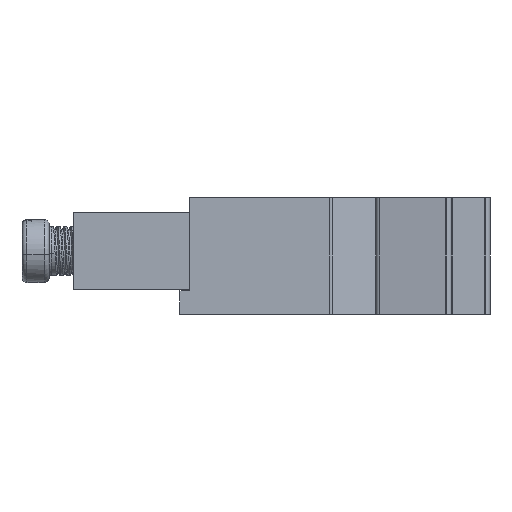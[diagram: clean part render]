
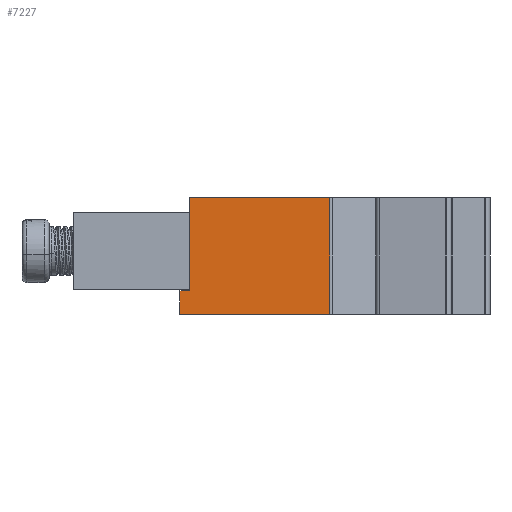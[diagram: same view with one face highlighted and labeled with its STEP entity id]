
A CAD part, left-side view. The second image highlights one B-rep face of the part: STEP entity #7227.
In plain terms, the highlighted planar face has unit normal (-1, 0, 0).
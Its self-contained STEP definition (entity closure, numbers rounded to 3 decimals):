
#315 = EDGE_CURVE ( 'NONE', #2735, #17862, #12988, .T. ) ;
#530 = DIRECTION ( 'NONE',  ( 0., 0., 1. ) ) ;
#601 = ORIENTED_EDGE ( 'NONE', *, *, #16350, .T. ) ;
#819 = LINE ( 'NONE', #9183, #5136 ) ;
#1018 = DIRECTION ( 'NONE',  ( 1., 0., 0. ) ) ;
#1299 = LINE ( 'NONE', #10472, #8508 ) ;
#1431 = ORIENTED_EDGE ( 'NONE', *, *, #315, .T. ) ;
#1823 = DIRECTION ( 'NONE',  ( 0., 1., 0. ) ) ;
#2146 = VECTOR ( 'NONE', #10010, 1000. ) ;
#2185 = FACE_OUTER_BOUND ( 'NONE', #3861, .T. ) ;
#2735 = VERTEX_POINT ( 'NONE', #2809 ) ;
#2809 = CARTESIAN_POINT ( 'NONE',  ( 0., 1., 0. ) ) ;
#3861 = EDGE_LOOP ( 'NONE', ( #1431, #13032, #10519, #6703, #601, #18040 ) ) ;
#4421 = DIRECTION ( 'NONE',  ( 0., 0., -1. ) ) ;
#5106 = CARTESIAN_POINT ( 'NONE',  ( 0., 0., 2.4 ) ) ;
#5136 = VECTOR ( 'NONE', #530, 1000. ) ;
#5504 = CARTESIAN_POINT ( 'NONE',  ( 0., -14.6, 0. ) ) ;
#6269 = EDGE_CURVE ( 'NONE', #13717, #2735, #13546, .T. ) ;
#6437 = CARTESIAN_POINT ( 'NONE',  ( 0., -14.487, 12. ) ) ;
#6703 = ORIENTED_EDGE ( 'NONE', *, *, #17893, .T. ) ;
#7227 = ADVANCED_FACE ( 'NONE', ( #2185 ), #18334, .F. ) ;
#8136 = CARTESIAN_POINT ( 'NONE',  ( 0., -14.6, 12. ) ) ;
#8302 = VECTOR ( 'NONE', #14312, 1000. ) ;
#8508 = VECTOR ( 'NONE', #1823, 1000. ) ;
#8543 = CARTESIAN_POINT ( 'NONE',  ( 0., 0., 12. ) ) ;
#9114 = VECTOR ( 'NONE', #18518, 1000. ) ;
#9183 = CARTESIAN_POINT ( 'NONE',  ( 0., -14.487, 12. ) ) ;
#9397 = CARTESIAN_POINT ( 'NONE',  ( 0., 0., 12. ) ) ;
#9576 = CARTESIAN_POINT ( 'NONE',  ( 0., 1., 2.4 ) ) ;
#9665 = VECTOR ( 'NONE', #4421, 1000. ) ;
#10010 = DIRECTION ( 'NONE',  ( 0., 0., -1. ) ) ;
#10295 = LINE ( 'NONE', #8543, #2146 ) ;
#10472 = CARTESIAN_POINT ( 'NONE',  ( 0., 0., 2.4 ) ) ;
#10519 = ORIENTED_EDGE ( 'NONE', *, *, #15102, .F. ) ;
#11122 = DIRECTION ( 'NONE',  ( 0., 0., -1. ) ) ;
#12829 = CARTESIAN_POINT ( 'NONE',  ( 0., -14.6, 12. ) ) ;
#12988 = LINE ( 'NONE', #5504, #9114 ) ;
#13032 = ORIENTED_EDGE ( 'NONE', *, *, #15381, .T. ) ;
#13546 = LINE ( 'NONE', #14536, #9665 ) ;
#13717 = VERTEX_POINT ( 'NONE', #9576 ) ;
#14312 = DIRECTION ( 'NONE',  ( 0., -1., 0. ) ) ;
#14536 = CARTESIAN_POINT ( 'NONE',  ( 0., 1., 2.4 ) ) ;
#14890 = VERTEX_POINT ( 'NONE', #9397 ) ;
#15102 = EDGE_CURVE ( 'NONE', #14890, #15644, #16474, .T. ) ;
#15381 = EDGE_CURVE ( 'NONE', #17862, #15644, #819, .T. ) ;
#15442 = AXIS2_PLACEMENT_3D ( 'NONE', #8136, #1018, #11122 ) ;
#15644 = VERTEX_POINT ( 'NONE', #6437 ) ;
#15741 = CARTESIAN_POINT ( 'NONE',  ( 0., -14.487, 0. ) ) ;
#16350 = EDGE_CURVE ( 'NONE', #17215, #13717, #1299, .T. ) ;
#16474 = LINE ( 'NONE', #12829, #8302 ) ;
#17215 = VERTEX_POINT ( 'NONE', #5106 ) ;
#17862 = VERTEX_POINT ( 'NONE', #15741 ) ;
#17893 = EDGE_CURVE ( 'NONE', #14890, #17215, #10295, .T. ) ;
#18040 = ORIENTED_EDGE ( 'NONE', *, *, #6269, .T. ) ;
#18334 = PLANE ( 'NONE',  #15442 ) ;
#18518 = DIRECTION ( 'NONE',  ( 0., -1., 0. ) ) ;
